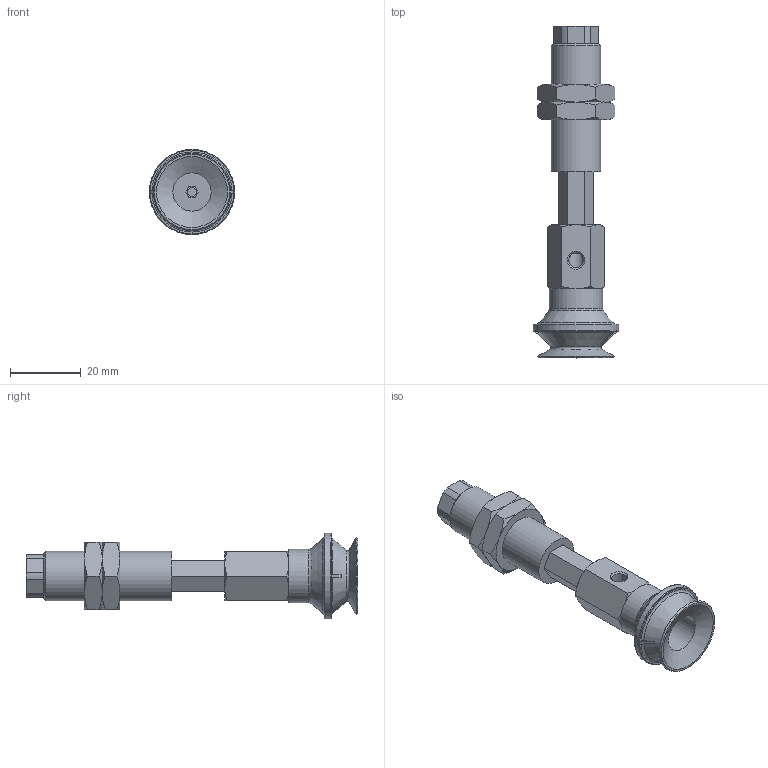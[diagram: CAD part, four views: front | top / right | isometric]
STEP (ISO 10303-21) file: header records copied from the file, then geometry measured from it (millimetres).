
FILE_DESCRIPTION(('STEP AP203'),'1');
FILE_NAME('.stp','2025-04-02T01:55:54',(' '),(' '),'Spatial InterOp 3D',' ',' ');
FILE_SCHEMA(('CONFIG_CONTROL_DESIGN'));
Length unit declared in the file: millimetre
Products named in the file (7): BNABPBYH-20-15-※; Adapter20-T-NAPB; CONNECTOR-20-15-PB; Nut-20-S-PB; NAPBTH-20-15-FBODY; NAPBTH-20-15-MBODY; BPBG-20-※
Assembly tree (7 placements, depth 2):
  BNABPBYH-20-15-※
    Adapter20-T-NAPB
    CONNECTOR-20-15-PB
    Nut-20-S-PB  x2
    NAPBTH-20-15-FBODY
    NAPBTH-20-15-MBODY
    BPBG-20-※
Bounding box: 24 x 93.5 x 24 mm (x, y, z)
Volume: 14817.2 mm3; surface area: 11400.2 mm2
Topology: 7 solids, 7 shells, 165 faces, 370 edges, 228 vertices
Faces by surface type: plane 79, cone 56, cylinder 21, torus 9
Full cylindrical faces by diameter (mm): 2.5 x1, 3 x1, 4.134 x3, 4.6 x1, 5 x2, 10.8 x1, 11 x1, 12.917 x2, 14 x1, 15 x1, 24 x1
Entity records: 4320 total; most frequent: CARTESIAN_POINT 984, DIRECTION 628, ORIENTED_EDGE 554, EDGE_CURVE 277, AXIS2_PLACEMENT_3D 253, EDGE_LOOP 198, VERTEX_POINT 191, FACE_OUTER_BOUND 163
